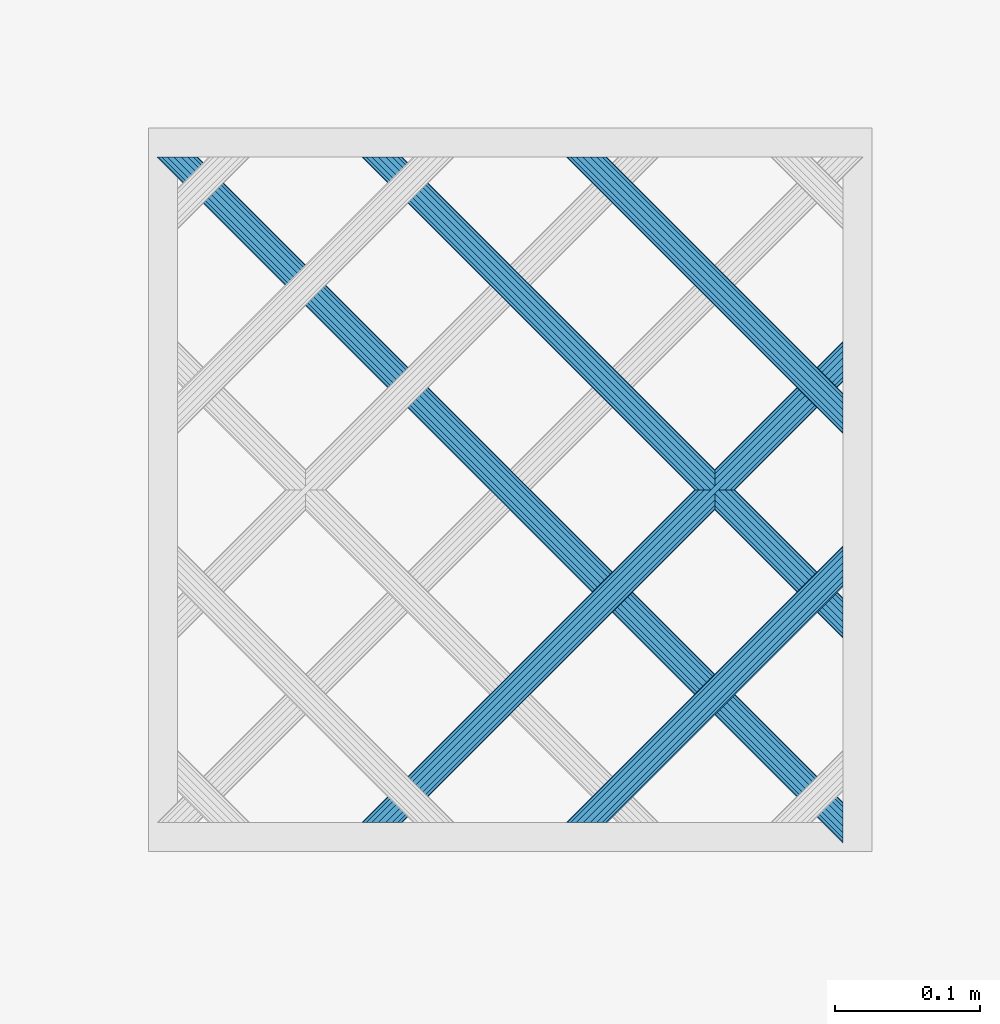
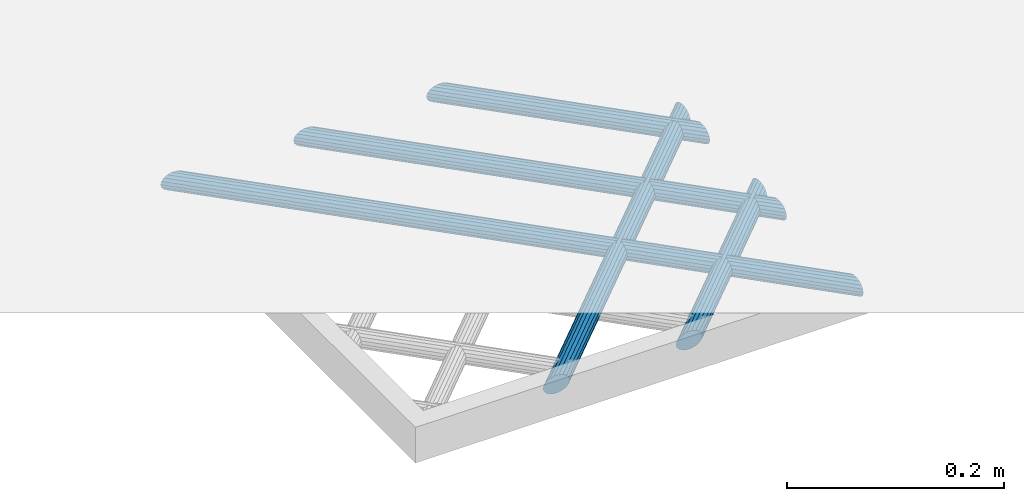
# One storey, part 39 of 133: 5 members, 1 element without a shape of its own.
"""IFC2X3 building model written with IfcOpenShell, lengths in centimetres."""

from ifc_helpers import new_model, entity, si_unit, converted_unit, direction, frame, origin, origin_with_axes, place, context, subcontext, project, spatial, faceted_brep, material, type_object, element, aggregate, save


model = new_model("IFC2X3")

# Units and contexts
model_context = context("Model", 3, precision=0.0001, world=origin(), true_north=direction((0.225632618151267, 0.974212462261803, 0.0)))
body_context = subcontext(model_context, "Body", "Model", "MODEL_VIEW")
ifc_project = project(units=[si_unit("LENGTHUNIT", "METRE", prefix="CENTI"), si_unit("AREAUNIT", "SQUARE_METRE", prefix="CENTI"), si_unit("VOLUMEUNIT", "CUBIC_METRE", prefix="CENTI"), converted_unit("PLANEANGLEUNIT", "DEGREE", entity("IfcRatioMeasure", 0.0174532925), si_unit("PLANEANGLEUNIT", "RADIAN"), dimensions=[0, 0, 0, 0, 0, 0, 0])], contexts=[model_context])

# Site, building, storey
site_placement = place(None, origin_with_axes())
site = spatial("IfcSite", under=ifc_project, at=site_placement, Name="Default Site", CompositionType="ELEMENT")
building_placement = place(site_placement, origin_with_axes())
building = spatial("IfcBuilding", under=site, at=building_placement, Name="Default Building", CompositionType="ELEMENT")
storey_placement = place(building_placement, frame((0.0, 0.0, -291.400371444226), z_axis=(0.0, 0.0, 1.0), x_axis=(1.0, 0.0, 0.0)))
storey = spatial("IfcBuildingStorey", under=building, at=storey_placement, Name="Rez-de-Jardin", CompositionType="ELEMENT", Elevation=-291.400371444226)

# Assembly, members
building_element_proxy_type = type_object("IfcBuildingElementProxyType", Name="Type Object", PredefinedType="NOTDEFINED")
assembly_placement = place(storey_placement, frame((900.320251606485, -1301.00060342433, -48.0), z_axis=(0.0, 1.0, -2.38697950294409e-15), x_axis=(1.0, 0.0, 0.0)))
assembly = element("IfcElementAssembly", 1, at=assembly_placement, inside=storey, type_object=building_element_proxy_type, Name="Panneau 294718", ObjectType="Precast panel", PredefinedType="USERDEFINED")
ifc_material = material(Name="Aluminium satiné")
member_1_placement = place(assembly_placement, frame((47.9999989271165, 0.342020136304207, 32.5289368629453), z_axis=(0.999999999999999, 0.0, 0.0), x_axis=(0.0, -0.774594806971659, -0.632457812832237)))
member_1 = element("IfcMember", 2, at=member_1_placement, material=ifc_material, Name="4294966682", context=body_context, shape_type="Brep", body=[
    faceted_brep([(-5.82867087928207e-14, -3.60822483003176e-14, 2.22044604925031e-14), (-0.388290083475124, -3.88578058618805e-14, 2.22044604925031e-14), (-0.799166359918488, -0.150246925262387, 2.22044604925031e-14), (-1.18307514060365, -0.432623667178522, 2.22044604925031e-14), (-1.49370756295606, -0.813066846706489, 2.22044604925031e-14), (-1.69359804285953, -1.24569095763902, 2.22044604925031e-14), (-1.75863665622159, -1.67831484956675, 2.22044604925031e-14), (-1.6809808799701, -2.05876033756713, 2.22044604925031e-14), (-1.46999321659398, -2.34113520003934, 2.22044604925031e-14), (-1.15112683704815, -2.49138695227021, 2.22044604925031e-14), (-0.762836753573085, -2.49138695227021, 2.22044604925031e-14), (-0.35196047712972, -2.34114002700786, 2.22044604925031e-14), (0.0319464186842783, -2.05876559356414, 2.22044604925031e-14), (0.342578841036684, -1.67832241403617, 2.22044604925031e-14), (0.542471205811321, -1.24569599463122, 2.22044604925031e-14), (0.607509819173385, -0.813072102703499, 2.22044604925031e-14), (0.529854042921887, -0.432626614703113, 2.22044604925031e-14), (0.318866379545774, -0.150251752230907, 2.22044604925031e-14), (19.573191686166, 23.4312426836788, -30.4436504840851), (19.838118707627, 23.2149293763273, -30.5289372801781), (20.0710916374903, 23.0247066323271, -30.774512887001), (20.2440104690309, 22.8835181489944, -31.1507567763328), (20.3360186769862, 22.80839331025, -31.6122874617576), (20.3360186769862, 22.80839331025, -32.1034386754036), (20.2440104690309, 22.8835181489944, -32.5649693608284), (20.0710916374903, 23.0247066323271, -32.9412132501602), (19.838118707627, 23.2149293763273, -33.1867888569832), (19.573191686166, 23.4312426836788, -33.2720771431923), (19.308264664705, 23.6475559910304, -33.1867888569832), (19.0752917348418, 23.8377787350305, -32.9412132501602), (18.9023729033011, 23.9789672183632, -32.5649693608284), (18.8103646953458, 24.0540920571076, -32.1034386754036), (18.8103646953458, 24.0540920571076, -31.6122874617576), (18.9023729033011, 23.9789672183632, -31.1507567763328), (19.0752917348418, 23.8377787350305, -30.774512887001), (19.308264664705, 23.6475559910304, -30.5289372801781), (0.529853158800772, -0.432627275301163, -1.07086510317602e-06), (19.8381179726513, 23.2149288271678, -30.5289381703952), (19.5731912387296, 23.4312423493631, -30.4436510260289), (0.607510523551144, -0.813071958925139, 5.56859210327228e-07), (20.0710918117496, 23.0247066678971, -30.774512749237), (19.8381188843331, 23.2149294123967, -30.5289371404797), (0.542470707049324, -1.24569591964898, -2.57365044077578e-07), (20.244010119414, 22.8835182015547, -31.1507569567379), (20.0710911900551, 23.024706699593, -30.7745131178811), (0.342579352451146, -1.67832265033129, 1.40415126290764e-07), (20.3360186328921, 22.8083933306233, -31.6122874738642), (20.2440105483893, 22.8835181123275, -31.150756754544), (-0.35196039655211, -2.34114013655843, -3.3895342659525e-08), (20.24401091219, 22.8835175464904, -32.5649695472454), (20.3360190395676, 22.8083928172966, -32.1034388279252), (-0.762836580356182, -2.49138742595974, -2.57365044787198e-07), (20.0710919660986, 23.0247057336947, -32.9412137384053), (20.2440108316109, 22.883517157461, -32.5649698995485), (-1.15112683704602, -2.4913862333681, 5.56859211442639e-07), (19.8381187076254, 23.2149288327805, -33.1867892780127), (20.0710916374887, 23.0247060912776, -32.9412136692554), (-1.4699936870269, -2.34113619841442, -1.07086510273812e-06), (19.5731912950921, 23.4312418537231, -33.2720780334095), (19.8381181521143, 23.2149281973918, -33.1867901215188), (-1.68097999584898, -2.05875967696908, 1.07086514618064e-06), (19.3082645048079, 23.6475558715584, -33.1867890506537), (19.5731918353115, 23.4312427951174, -33.2720769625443), (-1.75863736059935, -1.67831499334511, -5.56859166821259e-07), (19.0752905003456, 23.8377784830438, -32.9412142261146), (19.308263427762, 23.6475557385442, -33.1867898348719), (-1.69359754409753, -1.24569103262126, 2.57365088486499e-07), (18.9023723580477, 23.9789673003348, -32.5649696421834), (19.0752912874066, 23.8377788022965, -32.9412134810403), (-1.49370743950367, -0.813066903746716, 3.38953878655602e-08), (18.8103642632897, 24.0540922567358, -32.1034387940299), (18.9023723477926, 23.9789674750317, -32.5649695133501), (-0.799166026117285, -0.150247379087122, -1.40415081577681e-07), (18.902373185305, 23.9789668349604, -31.1507568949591), (18.8103650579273, 24.0540915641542, -31.6122876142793), (-0.388290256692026, 4.73689491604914e-07, 2.5736508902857e-07), (19.0752917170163, 23.8377787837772, -30.774512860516), (18.902372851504, 23.9789673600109, -31.1507566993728), (-2.18791205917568e-12, -7.18902149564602e-07, -5.56859168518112e-07), (19.3082646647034, 23.6475554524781, -30.5289376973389), (19.0752917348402, 23.837778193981, -30.7745133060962), (0.318866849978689, -0.150250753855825, 1.07086514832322e-06), (19.573191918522, 23.4312431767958, -30.4436499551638), (19.308264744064, 23.6475561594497, -30.5289370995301)], [[[0, 1, 2, 3, 4, 5, 6, 7, 8, 9, 10, 11, 12, 13, 14, 15, 16, 17]], [[18, 19, 20, 21, 22, 23, 24, 25, 26, 27, 28, 29, 30, 31, 32, 33, 34, 35]], [[17, 36, 37, 38]], [[16, 39, 40, 41]], [[15, 42, 43, 44]], [[14, 45, 46, 47]], [[13, 12, 23, 22]], [[12, 48, 49, 50]], [[11, 51, 52, 53]], [[10, 54, 55, 56]], [[9, 57, 58, 59]], [[8, 60, 61, 62]], [[7, 63, 64, 65]], [[6, 66, 67, 68]], [[5, 69, 70, 71]], [[4, 3, 32, 31]], [[3, 72, 73, 74]], [[2, 75, 76, 77]], [[1, 78, 79, 80]], [[0, 81, 82, 83]]]),
])
member_2_placement = place(assembly_placement, frame((47.9999989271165, 0.3420201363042, 18.3868020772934), z_axis=(0.999999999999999, 0.0, 0.0), x_axis=(0.0, -0.774596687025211, -0.632455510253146)))
member_2 = element("IfcMember", 3, at=member_2_placement, material=ifc_material, Name="4294966681", context=body_context, shape_type="Brep", body=[
    faceted_brep([(8.32667268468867e-15, -2.77555756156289e-15, -1.55431223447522e-13), (-0.388289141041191, 0.0, -1.55431223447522e-13), (-0.799165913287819, -0.150249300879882, -1.55431223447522e-13), (-1.18307291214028, -0.432626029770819, -1.55431223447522e-13), (-1.49370420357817, -0.813070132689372, -1.55431223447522e-13), (-1.69359339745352, -1.2456948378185, -1.55431223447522e-13), (-1.75863166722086, -1.67832007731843, -1.55431223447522e-13), (-1.68097381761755, -2.05876418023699, -1.55431223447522e-13), (-1.46998625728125, -2.34113956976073, -1.55431223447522e-13), (-1.15111848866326, -2.49138921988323, -1.55431223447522e-13), (-0.76282934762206, -2.49138921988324, -1.55431223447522e-13), (-0.35195257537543, -2.34113991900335, -1.55431223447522e-13), (0.0319534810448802, -2.05876434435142, -1.55431223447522e-13), (0.342584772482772, -1.67832024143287, -1.55431223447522e-13), (0.542474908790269, -1.24569438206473, -1.55431223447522e-13), (0.607513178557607, -0.813069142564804, -1.55431223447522e-13), (0.529855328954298, -0.432625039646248, -1.55431223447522e-13), (0.318867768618, -0.150249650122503, -1.55431223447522e-13), (10.628850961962, 12.4768501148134, -16.3015127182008), (10.8937786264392, 12.2605375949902, -16.3868010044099), (11.1267521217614, 12.070315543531, -16.632378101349), (11.2996713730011, 11.9291275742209, -17.0086205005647), (11.3916798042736, 11.8540030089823, -17.4701511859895), (11.3916798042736, 11.8540030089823, -17.9613023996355), (11.2996713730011, 11.9291275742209, -18.4228330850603), (11.1267521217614, 12.070315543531, -18.7990784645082), (10.8937786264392, 12.2605375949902, -19.0446525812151), (10.628850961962, 12.4768501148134, -19.1299408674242), (10.3639232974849, 12.6931626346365, -19.0446525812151), (10.1309498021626, 12.8833846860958, -18.7990784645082), (9.95803055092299, 13.0245726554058, -18.4228330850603), (9.8660221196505, 13.0996972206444, -17.9613023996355), (9.8660221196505, 13.0996972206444, -17.4701511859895), (9.95803055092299, 13.0245726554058, -17.0086205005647), (10.1309498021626, 12.8833846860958, -16.632378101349), (10.3639232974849, 12.6931626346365, -16.3868010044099), (0.529855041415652, -0.432625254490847, -3.482734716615e-07), (10.8937778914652, 12.2605370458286, -16.3868018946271), (10.6288499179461, 12.4768493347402, -16.3015139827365), (0.607513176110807, -0.813069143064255, -1.93452127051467e-09), (11.1267522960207, 12.0703155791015, -16.632377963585), (10.8937780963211, 12.2605374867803, -16.3868014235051), (0.542475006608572, -1.24569439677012, 5.04748264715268e-08), (11.299671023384, 11.9291276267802, -17.0086206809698), (11.1267522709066, 12.0703155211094, -16.632378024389), (0.342584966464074, -1.67832033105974, 5.32597135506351e-08), (11.3916794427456, 11.8540031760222, -17.4701512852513), (11.2996711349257, 11.929127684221, -17.0086205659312), (-0.351952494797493, -2.34114002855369, -3.38955207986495e-08), (11.2996718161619, 11.9291269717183, -18.4228332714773), (11.3916801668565, 11.85400251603, -17.9613025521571), (-0.762829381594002, -2.49138912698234, 5.04748265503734e-08), (11.1267522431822, 12.0703152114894, -18.7990786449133), (11.299671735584, 11.9291265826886, -18.4228336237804), (-1.15111848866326, -2.49138922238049, -1.93452235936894e-09), (10.8937786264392, 12.2605363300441, -19.0446535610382), (11.1267521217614, 12.0703150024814, -18.7990788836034), (-1.46998641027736, -2.34113989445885, -3.482734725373e-07), (10.6288505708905, 12.4768492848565, -19.1299417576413), (10.89377807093, 12.2605364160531, -19.0446538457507), (-1.6809735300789, -2.05876396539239, 3.48273161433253e-07), (10.3639225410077, 12.6931620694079, -19.0446534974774), (10.6288505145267, 12.4768497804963, -19.129941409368), (-1.75863166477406, -1.67832007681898, 1.93421128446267e-09), (10.1309492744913, 12.8833845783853, -18.799078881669), (10.3639220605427, 12.6931623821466, -19.0446535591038), (-1.69359349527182, -1.24569482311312, -5.04751378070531e-08), (9.95802940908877, 13.0245728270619, -18.4228336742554), (10.1309493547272, 12.8833847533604, -18.7990786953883), (-1.49370408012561, -0.813070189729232, 3.389521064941e-08), (9.86602168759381, 13.0996974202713, -17.9613025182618), (9.95802999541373, 13.0245729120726, -18.4228332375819), (-1.18307291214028, -0.43262602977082, -1.55431223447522e-13), (-0.799165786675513, -0.150249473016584, -5.32600242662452e-08), (9.95803083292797, 13.0245722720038, -17.008620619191), (9.86602248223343, 13.0996967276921, -17.4701513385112), (-0.38828910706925, -9.29008915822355e-08, -5.04751366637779e-08), (10.130949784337, 12.8833847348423, -16.632378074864), (9.95803070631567, 13.0245722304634, -17.0086207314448), (8.30097518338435e-15, 2.4972541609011e-09, 1.93421150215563e-09), (10.3639232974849, 12.6931620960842, -16.3868014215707), (10.1309498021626, 12.8833848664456, -16.6323779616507), (0.318867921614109, -0.150249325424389, 3.4827315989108e-07), (10.6288505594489, 12.4768492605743, -16.3015136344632), (10.3639230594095, 12.6931621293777, -16.3868015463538)], [[[0, 1, 2, 3, 4, 5, 6, 7, 8, 9, 10, 11, 12, 13, 14, 15, 16, 17]], [[18, 19, 20, 21, 22, 23, 24, 25, 26, 27, 28, 29, 30, 31, 32, 33, 34, 35]], [[17, 36, 37, 38]], [[16, 39, 40, 41]], [[15, 42, 43, 44]], [[14, 45, 46, 47]], [[13, 12, 23, 22]], [[12, 48, 49, 50]], [[11, 51, 52, 53]], [[10, 54, 55, 56]], [[9, 57, 58, 59]], [[8, 60, 61, 62]], [[7, 63, 64, 65]], [[6, 66, 67, 68]], [[5, 69, 70, 71]], [[4, 72, 32, 31]], [[3, 73, 74, 75]], [[2, 76, 77, 78]], [[1, 79, 80, 81]], [[0, 82, 83, 84]]]),
])
member_3_placement = place(assembly_placement, frame((47.9999989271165, 0.342020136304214, 28.9553463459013), z_axis=(0.999999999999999, 0.0, 0.0), x_axis=(0.0, -0.774598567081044, -0.632453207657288)))
member_3 = element("IfcMember", 4, at=member_3_placement, material=ifc_material, Name="4294966678", context=body_context, shape_type="Brep", body=[
    faceted_brep([(1.27675647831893e-13, 2.77555756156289e-15, 0.0), (-0.388288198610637, 5.55111512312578e-15, 0.0), (-0.799165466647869, -0.150251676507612, 0.0), (-1.18307068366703, -0.432628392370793, 0.0), (-1.49370084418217, -0.813073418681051, 0.0), (-1.69358875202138, -1.24569871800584, 0.0), (-1.75862479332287, -1.67832299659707, 0.0), (-1.68096675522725, -2.05876802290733, 0.0), (-1.46997929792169, -2.34114393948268, 0.0), (-1.15111014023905, -2.49139148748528, 0.0), (-0.762820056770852, -2.49138917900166, 0.0), (-0.351944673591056, -2.34113981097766, 0.0), (0.0319605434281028, -2.05876309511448, 0.0), (0.342590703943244, -1.67831806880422, 0.0), (0.542478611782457, -1.24569276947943, 0.0), (0.607516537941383, -0.813066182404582, 0.0), (0.529856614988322, -0.432623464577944, 0.0), (0.318869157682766, -0.150247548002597, 0.0), (-11.7799233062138, -14.9682723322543, -19.129940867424), (-11.5149949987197, -15.1845840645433, -19.0446525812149), (-11.2820209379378, -15.3748054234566, -18.7990784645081), (-11.1091012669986, -15.5159928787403, -18.4228330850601), (-11.0170926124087, -15.5911171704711, -17.9613023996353), (-11.0170926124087, -15.5911171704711, -17.4701511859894), (-11.1091012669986, -15.5159928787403, -17.0086205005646), (-11.2820209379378, -15.3748054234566, -16.6323781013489), (-11.5149949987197, -15.1845840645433, -16.3868010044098), (-11.7799233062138, -14.9682723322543, -16.3015127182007), (-12.0448516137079, -14.7519605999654, -16.3868010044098), (-12.2778256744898, -14.5617392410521, -16.6323781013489), (-12.450745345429, -14.4205517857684, -17.0086205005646), (-12.5427540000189, -14.3454274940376, -17.4701511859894), (-12.5427540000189, -14.3454274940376, -17.9613023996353), (-12.450745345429, -14.4205517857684, -18.4228330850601), (-12.2778256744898, -14.5617392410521, -18.7990784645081), (-12.0448516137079, -14.7519605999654, -19.0446525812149), (0.529856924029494, -0.432623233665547, -3.74318492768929e-07), (-11.5149946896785, -15.1845838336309, -19.0446529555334), (0.60751582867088, -0.813066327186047, 5.60727919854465e-07), (-11.2820216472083, -15.3748055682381, -18.7990779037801), (0.542479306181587, -1.2456928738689, -3.58315027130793e-07), (-11.1091005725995, -15.5159929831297, -18.4228334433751), (0.342590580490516, -1.67831801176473, 3.38953650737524e-08), (-11.0170927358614, -15.5911171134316, -17.96130236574), (0.0319605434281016, -2.05876309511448, 0.0), (-0.351944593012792, -2.34113992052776, 3.38953657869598e-08), (-11.1091011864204, -15.5159929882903, -17.0086204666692), (-0.762819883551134, -2.49138965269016, 2.57365066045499e-07), (-11.2820207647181, -15.3748058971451, -16.6323778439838), (-1.1511101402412, -2.49139076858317, -5.56859187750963e-07), (-11.5149949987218, -15.1845833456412, -16.386801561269), (-1.469979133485, -2.34114359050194, -3.74318494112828e-07), (-11.7799231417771, -14.9682719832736, -16.3015130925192), (-1.68096706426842, -2.05876825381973, 3.74318492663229e-07), (-12.0448519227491, -14.7519608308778, -16.3868006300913), (-1.75862549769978, -1.67832314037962, 5.56859189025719e-07), (-12.2778263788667, -14.5617393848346, -16.6323775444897), (-1.69358825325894, -1.24569879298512, -2.57365066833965e-07), (-12.4507448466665, -14.4205518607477, -17.0086207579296), (-1.49370072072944, -0.813073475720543, -3.38953650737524e-08), (-12.5427538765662, -14.3454275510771, -17.4701512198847), (-1.18307068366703, -0.432628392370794, 0.0), (-0.799165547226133, -0.150251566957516, -3.38953657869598e-08), (-12.4507454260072, -14.4205516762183, -18.4228331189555), (-0.388287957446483, -6.59490075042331e-07, 3.58315028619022e-07), (-12.2778254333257, -14.5617399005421, -18.799078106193), (-2.03165375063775e-12, 7.23896626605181e-07, -5.60727921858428e-07), (-12.0448516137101, -14.7519598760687, -19.0446531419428), (0.318868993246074, -0.150247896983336, 3.74318494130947e-07), (-11.7799234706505, -14.9682726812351, -19.1299404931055)], [[[0, 1, 2, 3, 4, 5, 6, 7, 8, 9, 10, 11, 12, 13, 14, 15, 16, 17]], [[18, 19, 20, 21, 22, 23, 24, 25, 26, 27, 28, 29, 30, 31, 32, 33, 34, 35]], [[17, 36, 37, 18]], [[16, 38, 39, 19]], [[15, 40, 41, 20]], [[14, 42, 43, 21]], [[13, 44, 23, 22]], [[12, 45, 46, 23]], [[11, 47, 48, 24]], [[10, 49, 50, 25]], [[9, 51, 52, 26]], [[8, 53, 54, 27]], [[7, 55, 56, 28]], [[6, 57, 58, 29]], [[5, 59, 60, 30]], [[4, 61, 32, 31]], [[3, 62, 63, 32]], [[2, 64, 65, 33]], [[1, 66, 67, 34]], [[0, 68, 69, 35]]]),
])
member_4_placement = place(assembly_placement, frame((47.9999989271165, 0.342020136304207, 14.8132100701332), z_axis=(0.999999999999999, 0.0, 0.0), x_axis=(0.0, -0.774596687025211, -0.632455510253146)))
member_4 = element("IfcMember", 5, at=member_4_placement, material=ifc_material, Name="4294966677", context=body_context, shape_type="Brep", body=[
    faceted_brep([(6.66133814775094e-14, -4.44089209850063e-14, -1.55431223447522e-13), (-0.388289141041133, -4.44089209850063e-14, -1.55431223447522e-13), (-0.799165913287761, -0.150249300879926, -1.55431223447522e-13), (-1.18307196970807, -0.432624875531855, -1.55431223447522e-13), (-1.49370326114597, -0.813068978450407, -1.55431223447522e-13), (-1.69359245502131, -1.24569368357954, -1.55431223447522e-13), (-1.75863072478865, -1.67831892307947, -1.55431223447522e-13), (-1.68097287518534, -2.05876302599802, -1.55431223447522e-13), (-1.46998531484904, -2.34113841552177, -1.55431223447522e-13), (-1.15111754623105, -2.49138806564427, -1.55431223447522e-13), (-0.762828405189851, -2.49138806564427, -1.55431223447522e-13), (-0.351951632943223, -2.34113876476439, -1.55431223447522e-13), (0.0319544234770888, -2.05876319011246, -1.55431223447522e-13), (0.342585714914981, -1.67831908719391, -1.55431223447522e-13), (0.542474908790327, -1.24569438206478, -1.55431223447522e-13), (0.607513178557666, -0.813069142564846, -1.55431223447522e-13), (0.529855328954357, -0.432625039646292, -1.55431223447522e-13), (0.318868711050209, -0.150248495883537, -1.55431223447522e-13), (-20.7242398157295, -25.9226892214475, -33.2720771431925), (-20.4593121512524, -26.1390017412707, -33.1867888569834), (-20.2263386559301, -26.3292237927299, -32.9412132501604), (-20.0534194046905, -26.47041176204, -32.5649693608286), (-19.961410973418, -26.5455363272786, -32.1034386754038), (-19.961410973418, -26.5455363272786, -31.6122874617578), (-20.0534194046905, -26.47041176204, -31.150756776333), (-20.2263386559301, -26.3292237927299, -30.7745128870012), (-20.4593121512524, -26.1390017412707, -30.5289372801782), (-20.7242398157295, -25.9226892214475, -30.4436504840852), (-20.9891674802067, -25.7063767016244, -30.5289372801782), (-21.2221409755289, -25.5161546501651, -30.7745128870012), (-21.3950602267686, -25.3749666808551, -31.150756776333), (-21.487068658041, -25.2998421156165, -31.6122874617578), (-21.487068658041, -25.2998421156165, -32.1034386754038), (-21.3950602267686, -25.3749666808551, -32.5649693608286), (-21.2221409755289, -25.5161546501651, -32.9412132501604), (-20.9891674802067, -25.7063767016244, -33.1867888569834), (0.529855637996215, -0.432624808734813, -3.74318648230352e-07), (-20.4593118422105, -26.1390015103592, -33.1867892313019), (0.607513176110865, -0.813069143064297, 1.93421072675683e-09), (-20.2263386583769, -26.3292237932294, -32.941213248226), (0.54247500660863, -1.24569439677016, -5.04751370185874e-08), (-20.0534193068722, -26.4704117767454, -32.5649694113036), (0.342585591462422, -1.67831903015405, 3.38952101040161e-08), (-19.9614110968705, -26.5455362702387, -32.1034386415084), (0.03195442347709, -2.05876319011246, -1.55431223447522e-13), (-0.351951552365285, -2.34113887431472, 3.38952101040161e-08), (-20.0534193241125, -26.4704118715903, -31.1507567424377), (-0.762828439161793, -2.49138797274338, -5.04751375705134e-08), (-20.2263386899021, -26.3292236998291, -30.7745129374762), (-1.15111754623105, -2.49138806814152, 1.93421149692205e-09), (-20.4593121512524, -26.1390017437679, -30.5289372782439), (-1.46998546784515, -2.34113874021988, 3.48273160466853e-07), (-20.7242399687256, -25.9226895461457, -30.4436501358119), (-1.68097258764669, -2.05876281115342, -3.482734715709e-07), (-20.989167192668, -25.7063764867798, -30.5289376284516), (-1.75863072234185, -1.67831892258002, -1.93452150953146e-09), (-21.2221409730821, -25.5161546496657, -30.7745128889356), (-1.69359255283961, -1.24569366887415, 5.04748263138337e-08), (-21.3950603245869, -25.3749666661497, -31.150756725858), (-1.49370313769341, -0.813069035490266, -3.38955212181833e-08), (-21.4870685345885, -25.2998421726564, -31.6122874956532), (-1.18307196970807, -0.432624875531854, -1.55431223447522e-13), (-0.799165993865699, -0.150249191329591, -3.3895520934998e-08), (-21.3950603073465, -25.3749665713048, -32.5649693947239), (-0.388289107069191, -9.29009360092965e-08, 5.04748258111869e-08), (-21.222140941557, -25.516154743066, -32.9412131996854), (6.65876839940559e-14, 2.49721079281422e-09, -1.9345210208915e-09), (-20.9891674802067, -25.7063766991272, -33.1867888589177), (0.31886854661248, -0.150248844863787, 3.7431833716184e-07), (-20.7242399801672, -25.9226895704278, -33.272076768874), (-20.9891674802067, -25.7063767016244, -33.1867888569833)], [[[0, 1, 2, 3, 4, 5, 6, 7, 8, 9, 10, 11, 12, 13, 14, 15, 16, 17]], [[18, 19, 20, 21, 22, 23, 24, 25, 26, 27, 28, 29, 30, 31, 32, 33, 34, 35]], [[17, 36, 37, 18]], [[16, 38, 39, 19]], [[15, 40, 41, 20]], [[14, 42, 43, 21]], [[13, 44, 23, 22]], [[12, 45, 46, 23]], [[11, 47, 48, 24]], [[10, 49, 50, 25]], [[9, 51, 52, 26]], [[8, 53, 54, 27]], [[7, 55, 56, 28]], [[6, 57, 58, 29]], [[5, 59, 60, 30]], [[4, 61, 32, 31]], [[3, 62, 63, 32]], [[2, 64, 65, 33]], [[1, 66, 67, 34]], [[0, 68, 69, 70]]]),
])
member_5_placement = place(assembly_placement, frame((47.9999989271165, 0.3420201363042, 0.671073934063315), z_axis=(0.999999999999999, 0.0, 0.0), x_axis=(0.0, -0.774596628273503, -0.632455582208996)))
member_5 = element("IfcMember", 6, at=member_5_placement, material=ifc_material, Name="4294966676", context=body_context, shape_type="Brep", body=[
    faceted_brep([(-9.95731275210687e-14, -1.76334641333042e-13, -1.11022302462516e-14), (-0.388289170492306, -1.75380543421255e-13, -1.11022302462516e-14), (-0.799165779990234, -0.150249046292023, -1.11022302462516e-14), (-1.18307215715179, -0.432624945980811, -1.11022302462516e-14), (-1.49370348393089, -0.813069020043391, -1.11022302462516e-14), (-1.69359307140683, -1.24569413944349, -1.11022302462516e-14), (-1.75863126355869, -1.67831922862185, -1.11022302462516e-14), (-1.68097344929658, -2.05876333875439, -1.11022302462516e-14), (-1.46998638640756, -2.3411393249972, -1.11022302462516e-14), (-1.15111816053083, -2.49138842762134, -1.11022302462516e-14), (-0.762829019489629, -2.49138846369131, -1.11022302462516e-14), (-0.351952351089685, -2.34113934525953, -1.11022302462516e-14), (0.0319540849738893, -2.05876337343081, -1.11022302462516e-14), (0.342585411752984, -1.67831929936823, -1.11022302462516e-14), (0.542474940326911, -1.24569425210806, -1.11022302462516e-14), (0.60751307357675, -0.813069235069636, -1.11022302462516e-14), (0.529855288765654, -0.432625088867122, -1.11022302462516e-14), (0.318868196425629, -0.150249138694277, -1.11022302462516e-14), (-29.6685151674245, -36.8771382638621, -47.414212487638), (-29.4035875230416, -37.0934508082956, -47.3289249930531), (-29.17061404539, -37.2836728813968, -47.083349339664), (-28.997694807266, -37.4248608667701, -46.7071057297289), (-28.9056863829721, -37.4999854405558, -46.2455745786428), (-28.9056863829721, -37.4999854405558, -45.7544233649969), (-28.997694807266, -37.4248608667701, -45.2928921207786), (-29.17061404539, -37.2836728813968, -44.9166484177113), (-29.4035875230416, -37.0934508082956, -44.6710728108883), (-29.6685151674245, -36.8771382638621, -44.5857852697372), (-29.9334428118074, -36.6608257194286, -44.6710728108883), (-30.1664162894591, -36.4706036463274, -44.9166484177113), (-30.3393355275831, -36.3294156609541, -45.2928921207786), (-30.4313439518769, -36.2542910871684, -45.7544233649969), (-30.4313439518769, -36.2542910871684, -46.2455745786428), (-30.3393355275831, -36.3294156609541, -46.7071057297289), (-30.1664162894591, -36.4706036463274, -47.083349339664), (-29.9334428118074, -36.6608257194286, -47.3289249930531), (0.529855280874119, -0.432625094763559, 9.55839447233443e-09), (-29.4035875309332, -37.093450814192, -47.3289249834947), (0.607513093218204, -0.813069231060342, -1.5527943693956e-08), (-29.1706140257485, -37.2836728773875, -47.0833493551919), (0.542474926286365, -1.24569424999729, 7.24501658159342e-09), (-28.9976948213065, -37.4248608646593, -46.7071057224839), (0.342585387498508, -1.67831928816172, 6.65934360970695e-09), (-28.9056864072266, -37.4999854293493, -46.2455745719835), (-28.9976948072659, -37.4248608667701, -46.7071057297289), (0.0319540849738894, -2.05876337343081, -1.11022302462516e-14), (-0.35195234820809, -2.34113934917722, 1.21214139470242e-09), (-28.9976948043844, -37.4248608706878, -45.2928921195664), (-0.762829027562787, -2.49138844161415, -1.19949864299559e-08), (-29.1706140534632, -37.2836728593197, -44.9166484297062), (-1.15111816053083, -2.49138843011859, 1.93435497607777e-09), (-29.4035875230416, -37.0934508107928, -44.6710728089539), (-1.46998638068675, -2.34113931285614, -1.30225994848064e-08), (-29.6685151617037, -36.877138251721, -44.5857852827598), (-1.68097346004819, -2.05876334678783, 1.30225775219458e-08), (-29.933442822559, -36.660825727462, -44.6710727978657), (-1.75863126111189, -1.6783192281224, -1.93437696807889e-09), (-30.1664162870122, -36.4706036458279, -44.9166484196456), (-1.69359309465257, -1.24569413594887, 1.19949642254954e-08), (-30.3393355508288, -36.3294156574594, -45.2928921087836), (-30.166416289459, -36.4706036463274, -44.9166484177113), (-1.49370347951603, -0.813069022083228, -1.21216376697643e-09), (-30.431343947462, -36.2542910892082, -45.7544233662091), (-0.799165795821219, -0.150249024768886, -6.6593658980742e-09), (-30.3393355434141, -36.3294156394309, -46.7071057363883), (-0.388289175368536, 1.33345407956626e-08, -7.24503872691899e-09), (-30.1664162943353, -36.4706036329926, -47.083349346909), (-1.01229052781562e-13, -2.00466507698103e-08, 1.55279214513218e-08), (-29.9334428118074, -36.6608257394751, -47.3289249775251), (-30.1664162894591, -36.4706036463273, -47.083349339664), (0.318868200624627, -0.150249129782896, -9.55841674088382e-09), (-29.6685151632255, -36.8771382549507, -47.4142124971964)], [[[0, 1, 2, 3, 4, 5, 6, 7, 8, 9, 10, 11, 12, 13, 14, 15, 16, 17]], [[18, 19, 20, 21, 22, 23, 24, 25, 26, 27, 28, 29, 30, 31, 32, 33, 34, 35]], [[17, 36, 37, 18]], [[16, 38, 39, 19]], [[15, 40, 41, 20]], [[14, 42, 43, 44]], [[13, 45, 23, 22]], [[12, 46, 47, 23]], [[11, 48, 49, 24]], [[10, 50, 51, 25]], [[9, 52, 53, 26]], [[8, 54, 55, 27]], [[7, 56, 57, 28]], [[6, 58, 59, 60]], [[5, 61, 62, 30]], [[4, 3, 32, 31]], [[3, 63, 64, 32]], [[2, 65, 66, 33]], [[1, 67, 68, 69]], [[0, 70, 71, 35]]]),
])
aggregate(assembly, [member_1, member_2, member_3, member_4, member_5])

save(model, "model.ifc")
